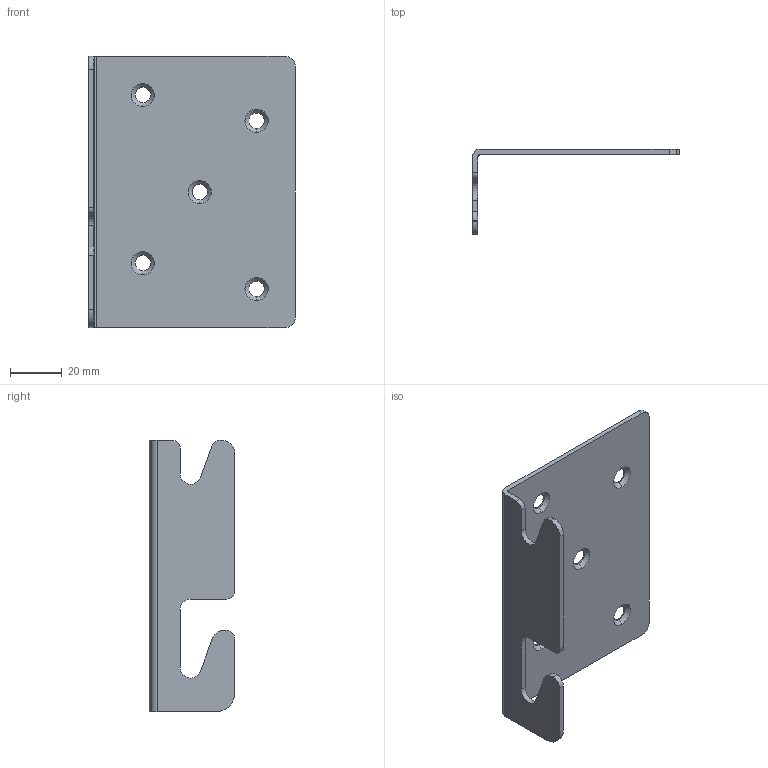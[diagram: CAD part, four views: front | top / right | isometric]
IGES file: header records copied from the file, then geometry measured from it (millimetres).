
Start section: 3D InterOp IGES (v. 2022 1.0.1), Spatial Corp. Copyright (c) 1999-2020.
Global section: file name: E302-A01.igs; native system: Spatial Corp.; preprocessor: 3D InterOp GENERIC/IGES 3.0; author: Noname; organization: Noname; date: 20260518.080711; units: millimetre
Bounding box: 80 x 33 x 105 mm (x, y, z)
Volume: 21465.1 mm3; surface area: 22733.3 mm2
Topology: 1 solids, 1 shells, 54 faces, 146 edges, 94 vertices
Faces by surface type: cylinder 28, extrusion 16, cone 10
